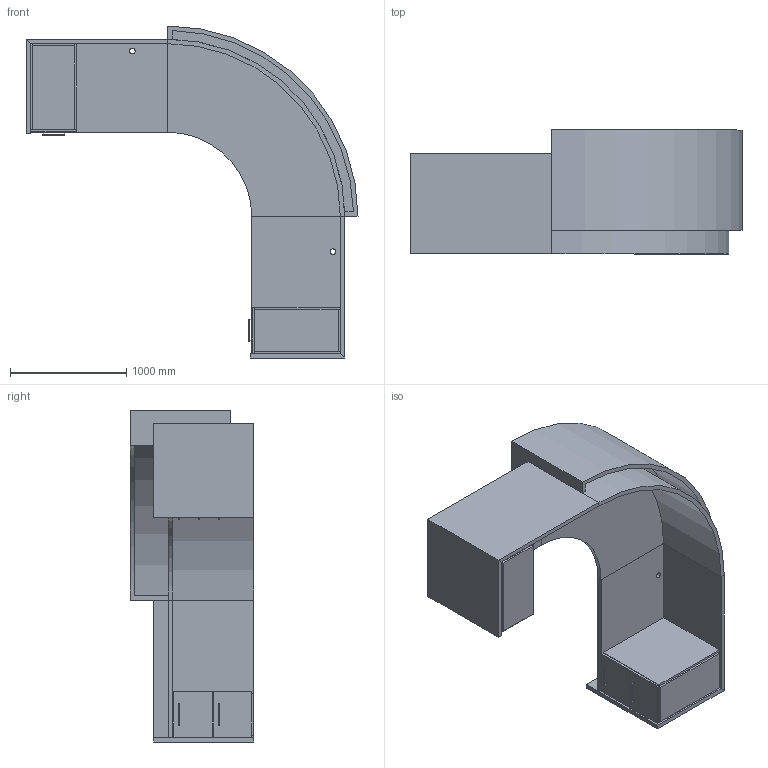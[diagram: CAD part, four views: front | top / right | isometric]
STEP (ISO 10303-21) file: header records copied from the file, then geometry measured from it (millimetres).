
FILE_DESCRIPTION(/* description */ ('','CAx-IF Rec.Pracs.---Representation and Presentation of Product Manufacturing Information (PMI)---4.0---2014-10-13'),/* implementation_level */ '2;1');
FILE_NAME(/* name */ 'RECEPTION_SALUTE 6.stp',/* time_stamp */ '2024-12-07T19:02:14-05:00',/* author */ ('mbowman'),/* organization */ (''),/* preprocessor_version */ 'ST-DEVELOPER v19.2',/* originating_system */ 'Autodesk Inventor 2023',/* authorisation */ '');
FILE_SCHEMA (('AP242_MANAGED_MODEL_BASED_3D_ENGINEERING_MIM_LF { 1 0 10303 442 1 1 4 }'));
Length unit declared in the file: inch
Products named in the file (3): SALUTE^ADMIN 6_QUARTER ROUND-SOLID ASSEMBLY; HAFELE 102.12.004-7_5 INCH; SALUTE^ADMIN 6_QUARTER ROUND-PARTS SOLID
Assembly tree (6 placements, depth 2):
  SALUTE^ADMIN 6_QUARTER ROUND-SOLID ASSEMBLY
    HAFELE 102.12.004-7_5 INCH  x5
    SALUTE^ADMIN 6_QUARTER ROUND-PARTS SOLID
Bounding box: 2857.5 x 1066.8 x 2857.5 mm (x, y, z)
Volume: 526848274 mm3; surface area: 33716334.9 mm2
Topology: 30 solids, 30 shells, 210 faces, 450 edges, 300 vertices
Faces by surface type: plane 197, cylinder 13
Full cylindrical faces by diameter (mm): 48.26 x2
Entity records: 5670 total; most frequent: CARTESIAN_POINT 1197, DIRECTION 800, ORIENTED_EDGE 708, EDGE_CURVE 354, LINE 326, VECTOR 326, STYLED_ITEM 269, AXIS2_PLACEMENT_3D 237
